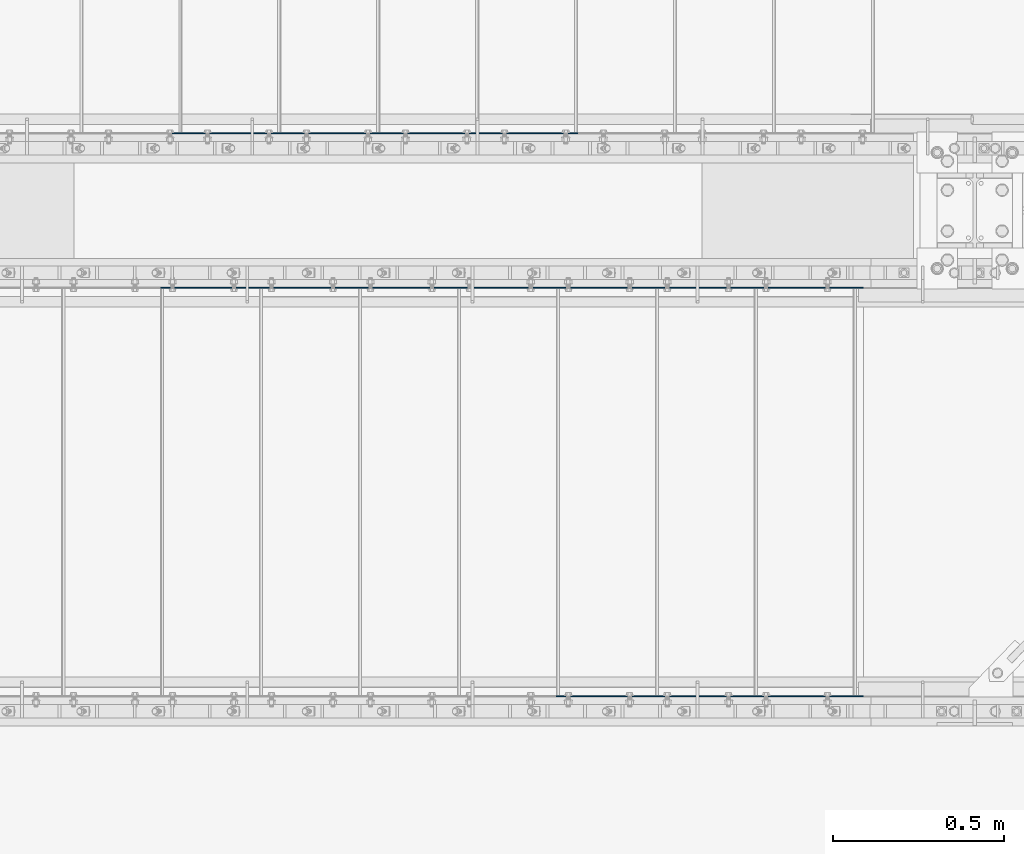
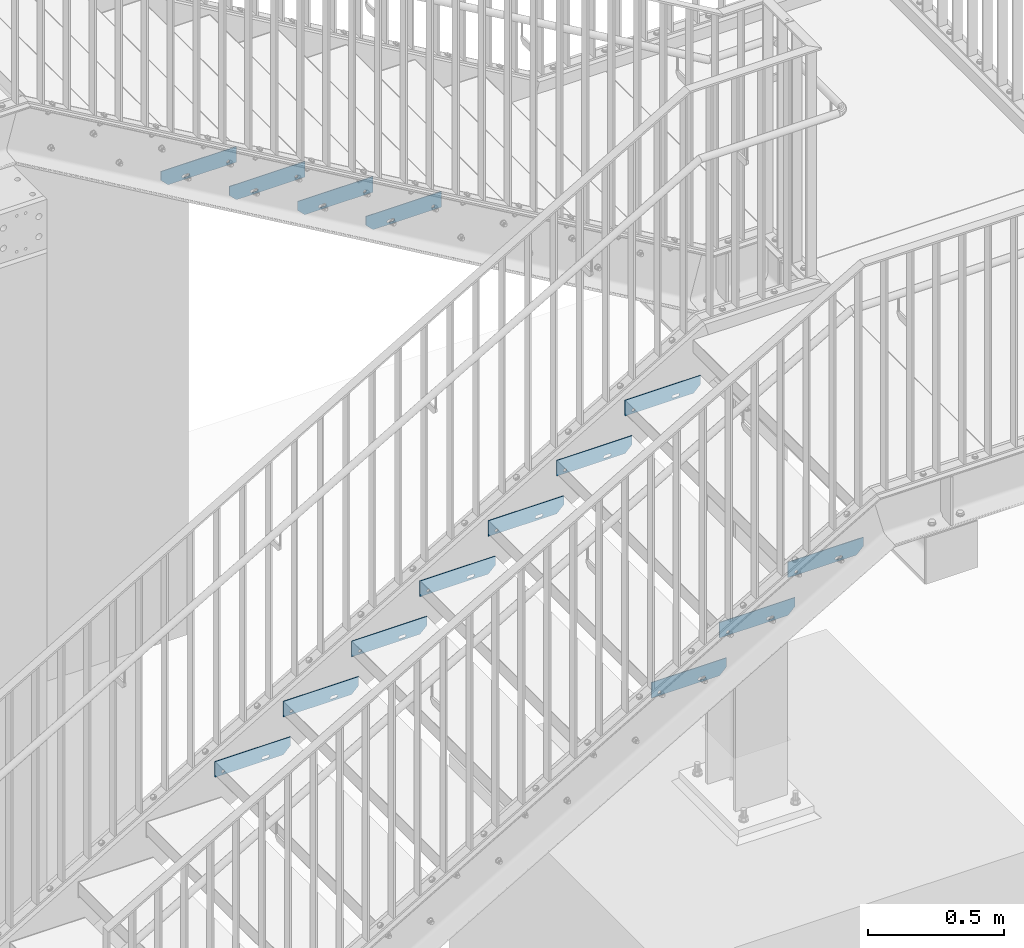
# One storey, part 22 of 145: 14 plates, 42 openings.
"""IFC2X3 building model written with IfcOpenShell, lengths in millimetres."""

from ifc_helpers import new_model, entity, si_unit, converted_unit, point, frame, frame_2d, origin, origin_with_axes, origin_2d_with_axis, place, context, project, spatial, polyline, circle_curve, line_curve, trimmed, segment, composite_curve, circle, outline, extrude, material, layer, layer_set, element, save


model = new_model("IFC2X3")

# Units and contexts
model_context = context("Model", 3, precision=1e-09, world=origin_with_axes())
ifc_project = project(units=[si_unit("LENGTHUNIT", "METRE", prefix="MILLI"), si_unit("AREAUNIT", "SQUARE_METRE"), si_unit("VOLUMEUNIT", "CUBIC_METRE"), converted_unit("PLANEANGLEUNIT", "DEGREE", entity("IfcPlaneAngleMeasure", 0.01745329), si_unit("PLANEANGLEUNIT", "RADIAN"), dimensions=[0, 0, 0, 0, 0, 0, 0])], contexts=[model_context])

# Site, building, storey
site_placement = place(None, origin_with_axes())
site = spatial("IfcSite", under=ifc_project, at=site_placement, Name="BZ1 Grund- und Mittelschule 85716 Unterschlei?heim", CompositionType="ELEMENT")
building_placement = place(site_placement, origin_with_axes())
building = spatial("IfcBuilding", under=site, at=building_placement, Name="Struktur 1", CompositionType="ELEMENT")
storey_placement = place(building_placement, origin_with_axes())
storey = spatial("IfcBuildingStorey", under=building, at=storey_placement, Name="Default Storey", CompositionType="ELEMENT", Elevation=0.0)

# Plate, openings
ifc_material = material(Name="S235JR")
ifc_layer = layer(ifc_material, 3.0)
ifc_layer_set = layer_set([ifc_layer], Name="S235JR")
plate_1_placement = place(None, frame((17984.545399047, -1920.002, 348.181818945), z_axis=(0.0, -1.0, 0.0), x_axis=(0.0, 0.0, -1.0)))
plate_1 = element("IfcPlate", 1, at=plate_1_placement, inside=storey, material=ifc_layer_set, Name="-", ObjectType="-", context=model_context, shape_type="SweptSolid", body=[
    extrude(outline(polyline([(-35.0, -160.0), (35.0, -160.0), (35.0, 160.0), (-35.0, 160.0), (-35.0, -160.0)])), origin_with_axes(), (0.0, 0.0, 1.0), 3.0),
])
opening_1_placement = place(plate_1_placement, frame((0.0, 7.5, -0.001), z_axis=(0.0, 0.0, 1.0), x_axis=(1.0, 0.0, 0.0)))
element("IfcOpeningElement", 2, at=opening_1_placement, cuts=plate_1, ObjectType="Opening", context=model_context, shape_type="SweptSolid", body=[
    extrude(outline(polyline([(5.0, 152.5), (35.0, 122.5), (35.0, 152.5), (5.0, 152.5)])), origin(), (0.0, 0.0, 1.0), 3.002),
])
opening_2_placement = place(plate_1_placement, frame((13.499, 45.5, -0.5), z_axis=(0.0, 0.0, -1.0), x_axis=(0.0, 1.0, 0.0)))
element("IfcOpeningElement", 3, at=opening_2_placement, cuts=plate_1, ObjectType="Opening", context=model_context, shape_type="SweptSolid", body=[
    extrude(outline(composite_curve([segment(trimmed(line_curve((0.0, 0.0), (1.0, 0.0), 19.0), [point((0.0, 0.0))], [point((19.0, 0.0))], True, "CARTESIAN"), True, "CONTINUOUS"), segment(trimmed(circle_curve(frame_2d((19.0, 6.501), x_axis=(1.0, 0.0)), 6.501), [point((19.0, 0.0))], [point((19.0, 13.002))], True, "CARTESIAN"), True, "CONTINUOUS"), segment(trimmed(line_curve((19.0, 13.002), (-1.0, 0.0), 19.0), [point((19.0, 13.002))], [point((0.0, 13.002))], True, "CARTESIAN"), True, "CONTINUOUS"), segment(trimmed(circle_curve(frame_2d((0.0, 6.501), x_axis=(1.0, 0.0)), 6.501), [point((0.0, 13.002))], [point((0.0, 0.0))], True, "CARTESIAN"), True, "CONTINUOUS")], self_intersect=False)), origin(), (0.0, 0.0, -1.0), 4.0),
])
opening_3_placement = place(plate_1_placement, frame((26.501, -125.0, -0.5), z_axis=(0.0, 0.0, -1.0), x_axis=(-1.0, 0.0, 0.0)))
element("IfcOpeningElement", 4, at=opening_3_placement, cuts=plate_1, ObjectType="Opening", context=model_context, shape_type="SweptSolid", body=[
    extrude(circle(Radius=6.501, at=frame_2d((6.501, 0.0), x_axis=(1.0, 0.0))), origin(), (0.0, 0.0, -1.0), 4.0),
])

plate_2_placement = place(None, frame((18274.545399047, -1920.002, 516.818182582), z_axis=(0.0, -1.0, 0.0), x_axis=(0.0, 0.0, -1.0)))
plate_2 = element("IfcPlate", 5, at=plate_2_placement, inside=storey, material=ifc_layer_set, Name="-", ObjectType="-", context=model_context, shape_type="SweptSolid", body=[
    extrude(outline(polyline([(-35.0, -160.0), (35.0, -160.0), (35.0, 160.0), (-35.0, 160.0), (-35.0, -160.0)])), origin_with_axes(), (0.0, 0.0, 1.0), 3.0),
])
opening_4_placement = place(plate_2_placement, frame((0.0, 7.5, -0.001), z_axis=(0.0, 0.0, 1.0), x_axis=(1.0, 0.0, 0.0)))
element("IfcOpeningElement", 6, at=opening_4_placement, cuts=plate_2, ObjectType="Opening", context=model_context, shape_type="SweptSolid", body=[
    extrude(outline(polyline([(5.0, 152.5), (35.0, 122.5), (35.0, 152.5), (5.0, 152.5)])), origin(), (0.0, 0.0, 1.0), 3.002),
])
opening_5_placement = place(plate_2_placement, frame((26.501, -125.0, -0.5), z_axis=(0.0, 0.0, -1.0), x_axis=(-1.0, 0.0, 0.0)))
element("IfcOpeningElement", 7, at=opening_5_placement, cuts=plate_2, ObjectType="Opening", context=model_context, shape_type="SweptSolid", body=[
    extrude(circle(Radius=6.501, at=frame_2d((6.501, 0.0), x_axis=(1.0, 0.0))), origin(), (0.0, 0.0, -1.0), 4.0),
])
opening_6_placement = place(plate_2_placement, frame((13.499, 45.5, -0.5), z_axis=(0.0, 0.0, -1.0), x_axis=(0.0, 1.0, 0.0)))
element("IfcOpeningElement", 8, at=opening_6_placement, cuts=plate_2, ObjectType="Opening", context=model_context, shape_type="SweptSolid", body=[
    extrude(outline(composite_curve([segment(trimmed(line_curve((0.0, 0.0), (1.0, 0.0), 19.0), [point((0.0, 0.0))], [point((19.0, 0.0))], True, "CARTESIAN"), True, "CONTINUOUS"), segment(trimmed(circle_curve(frame_2d((19.0, 6.501), x_axis=(1.0, 0.0)), 6.501), [point((19.0, 0.0))], [point((19.0, 13.002))], True, "CARTESIAN"), True, "CONTINUOUS"), segment(trimmed(line_curve((19.0, 13.002), (-1.0, 0.0), 19.0), [point((19.0, 13.002))], [point((0.0, 13.002))], True, "CARTESIAN"), True, "CONTINUOUS"), segment(trimmed(circle_curve(frame_2d((0.0, 6.501), x_axis=(1.0, 0.0)), 6.501), [point((0.0, 13.002))], [point((0.0, 0.0))], True, "CARTESIAN"), True, "CONTINUOUS")], self_intersect=False)), origin(), (0.0, 0.0, -1.0), 4.0),
])

plate_3_placement = place(None, frame((18564.545399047, -1920.002, 685.454546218), z_axis=(0.0, -1.0, 0.0), x_axis=(0.0, 0.0, -1.0)))
plate_3 = element("IfcPlate", 9, at=plate_3_placement, inside=storey, material=ifc_layer_set, Name="-", ObjectType="-", context=model_context, shape_type="SweptSolid", body=[
    extrude(outline(polyline([(-35.0, -160.0), (35.0, -160.0), (35.0, 160.0), (-35.0, 160.0), (-35.0, -160.0)])), origin_with_axes(), (0.0, 0.0, 1.0), 3.0),
])
opening_7_placement = place(plate_3_placement, frame((0.0, 7.5, -0.001), z_axis=(0.0, 0.0, 1.0), x_axis=(1.0, 0.0, 0.0)))
element("IfcOpeningElement", 10, at=opening_7_placement, cuts=plate_3, ObjectType="Opening", context=model_context, shape_type="SweptSolid", body=[
    extrude(outline(polyline([(5.0, 152.5), (35.0, 122.5), (35.0, 152.5), (5.0, 152.5)])), origin(), (0.0, 0.0, 1.0), 3.002),
])
opening_8_placement = place(plate_3_placement, frame((26.501, -125.0, -0.5), z_axis=(0.0, 0.0, -1.0), x_axis=(-1.0, 0.0, 0.0)))
element("IfcOpeningElement", 11, at=opening_8_placement, cuts=plate_3, ObjectType="Opening", context=model_context, shape_type="SweptSolid", body=[
    extrude(circle(Radius=6.501, at=frame_2d((6.501, 0.0), x_axis=(1.0, 0.0))), origin(), (0.0, 0.0, -1.0), 4.0),
])
opening_9_placement = place(plate_3_placement, frame((13.499, 45.5, -0.5), z_axis=(0.0, 0.0, -1.0), x_axis=(0.0, 1.0, 0.0)))
element("IfcOpeningElement", 12, at=opening_9_placement, cuts=plate_3, ObjectType="Opening", context=model_context, shape_type="SweptSolid", body=[
    extrude(outline(composite_curve([segment(trimmed(line_curve((0.0, 0.0), (1.0, 0.0), 19.0), [point((0.0, 0.0))], [point((19.0, 0.0))], True, "CARTESIAN"), True, "CONTINUOUS"), segment(trimmed(circle_curve(frame_2d((19.0, 6.501), x_axis=(1.0, 0.0)), 6.501), [point((19.0, 0.0))], [point((19.0, 13.002))], True, "CARTESIAN"), True, "CONTINUOUS"), segment(trimmed(line_curve((19.0, 13.002), (-1.0, 0.0), 19.0), [point((19.0, 13.002))], [point((0.0, 13.002))], True, "CARTESIAN"), True, "CONTINUOUS"), segment(trimmed(circle_curve(frame_2d((0.0, 6.501), x_axis=(1.0, 0.0)), 6.501), [point((0.0, 13.002))], [point((0.0, 0.0))], True, "CARTESIAN"), True, "CONTINUOUS")], self_intersect=False)), origin(), (0.0, 0.0, -1.0), 4.0),
])

plate_4_placement = place(None, frame((18854.545399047, -1920.002, 854.090909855), z_axis=(0.0, -1.0, 0.0), x_axis=(0.0, 0.0, -1.0)))
plate_4 = element("IfcPlate", 13, at=plate_4_placement, inside=storey, material=ifc_layer_set, Name="-", ObjectType="-", context=model_context, shape_type="SweptSolid", body=[
    extrude(outline(polyline([(-35.0, -160.0), (35.0, -160.0), (35.0, 160.0), (-35.0, 160.0), (-35.0, -160.0)])), origin_with_axes(), (0.0, 0.0, 1.0), 3.0),
])
opening_10_placement = place(plate_4_placement, frame((0.0, 7.5, -0.001), z_axis=(0.0, 0.0, 1.0), x_axis=(1.0, 0.0, 0.0)))
element("IfcOpeningElement", 14, at=opening_10_placement, cuts=plate_4, ObjectType="Opening", context=model_context, shape_type="SweptSolid", body=[
    extrude(outline(polyline([(5.0, 152.5), (35.0, 122.5), (35.0, 152.5), (5.0, 152.5)])), origin(), (0.0, 0.0, 1.0), 3.002),
])
opening_11_placement = place(plate_4_placement, frame((13.499, 45.5, -0.5), z_axis=(0.0, 0.0, -1.0), x_axis=(0.0, 1.0, 0.0)))
element("IfcOpeningElement", 15, at=opening_11_placement, cuts=plate_4, ObjectType="Opening", context=model_context, shape_type="SweptSolid", body=[
    extrude(outline(composite_curve([segment(trimmed(line_curve((0.0, 0.0), (1.0, 0.0), 19.0), [point((0.0, 0.0))], [point((19.0, 0.0))], True, "CARTESIAN"), True, "CONTINUOUS"), segment(trimmed(circle_curve(frame_2d((19.0, 6.501), x_axis=(1.0, 0.0)), 6.501), [point((19.0, 0.0))], [point((19.0, 13.002))], True, "CARTESIAN"), True, "CONTINUOUS"), segment(trimmed(line_curve((19.0, 13.002), (-1.0, 0.0), 19.0), [point((19.0, 13.002))], [point((0.0, 13.002))], True, "CARTESIAN"), True, "CONTINUOUS"), segment(trimmed(circle_curve(frame_2d((0.0, 6.501), x_axis=(1.0, 0.0)), 6.501), [point((0.0, 13.002))], [point((0.0, 0.0))], True, "CARTESIAN"), True, "CONTINUOUS")], self_intersect=False)), origin(), (0.0, 0.0, -1.0), 4.0),
])
opening_12_placement = place(plate_4_placement, frame((26.501, -125.0, -0.5), z_axis=(0.0, 0.0, -1.0), x_axis=(-1.0, 0.0, 0.0)))
element("IfcOpeningElement", 16, at=opening_12_placement, cuts=plate_4, ObjectType="Opening", context=model_context, shape_type="SweptSolid", body=[
    extrude(circle(Radius=6.501, at=frame_2d((6.501, 0.0), x_axis=(1.0, 0.0))), origin(), (0.0, 0.0, -1.0), 4.0),
])

plate_5_placement = place(None, frame((19144.545399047, -3117.002, 1022.727273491), z_axis=(0.0, -1.0, 0.0), x_axis=(0.0, 0.0, -1.0)))
plate_5 = element("IfcPlate", 17, at=plate_5_placement, inside=storey, material=ifc_layer_set, Name="-", ObjectType="-", context=model_context, shape_type="SweptSolid", body=[
    extrude(outline(polyline([(-35.0, -160.0), (35.0, -160.0), (35.0, 160.0), (-35.0, 160.0), (-35.0, -160.0)])), origin_with_axes(), (0.0, 0.0, 1.0), 3.0),
])
opening_13_placement = place(plate_5_placement, frame((0.0, 7.5, -0.001), z_axis=(0.0, 0.0, 1.0), x_axis=(1.0, 0.0, 0.0)))
element("IfcOpeningElement", 18, at=opening_13_placement, cuts=plate_5, ObjectType="Opening", context=model_context, shape_type="SweptSolid", body=[
    extrude(outline(polyline([(5.0, 152.5), (35.0, 122.5), (35.0, 152.5), (5.0, 152.5)])), origin(), (0.0, 0.0, 1.0), 3.002),
])
opening_14_placement = place(plate_5_placement, frame((20.0, -125.0, 3.5), z_axis=(0.0, 0.0, -1.0), x_axis=(-1.0, 0.0, 0.0)))
element("IfcOpeningElement", 19, at=opening_14_placement, cuts=plate_5, ObjectType="Opening", context=model_context, shape_type="SweptSolid", body=[
    extrude(circle(Radius=6.501, at=origin_2d_with_axis()), origin(), (0.0, 0.0, 1.0), 4.0),
])
opening_15_placement = place(plate_5_placement, frame((20.0, 55.0, 3.5), z_axis=(0.0, 0.0, -1.0), x_axis=(-1.0, 0.0, 0.0)))
element("IfcOpeningElement", 20, at=opening_15_placement, cuts=plate_5, ObjectType="Opening", context=model_context, shape_type="SweptSolid", body=[
    extrude(outline(composite_curve([segment(trimmed(line_curve((6.501, -9.5), (0.0, 1.0), 19.0), [point((6.501, -9.5))], [point((6.501, 9.5))], True, "CARTESIAN"), True, "CONTINUOUS"), segment(trimmed(circle_curve(frame_2d((0.0, 9.5), x_axis=(1.0, 0.0)), 6.501), [point((6.501, 9.5))], [point((-6.501, 9.5))], True, "CARTESIAN"), True, "CONTINUOUS"), segment(trimmed(line_curve((-6.501, 9.5), (0.0, -1.0), 19.0), [point((-6.501, 9.5))], [point((-6.501, -9.5))], True, "CARTESIAN"), True, "CONTINUOUS"), segment(trimmed(circle_curve(frame_2d((0.0, -9.5), x_axis=(1.0, 0.0)), 6.501), [point((-6.501, -9.5))], [point((6.501, -9.5))], True, "CARTESIAN"), True, "CONTINUOUS")], self_intersect=False)), origin(), (0.0, 0.0, 1.0), 4.0),
])

plate_6_placement = place(None, frame((19144.545399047, -1920.002, 1022.727273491), z_axis=(0.0, -1.0, 0.0), x_axis=(0.0, 0.0, -1.0)))
plate_6 = element("IfcPlate", 21, at=plate_6_placement, inside=storey, material=ifc_layer_set, Name="-", ObjectType="-", context=model_context, shape_type="SweptSolid", body=[
    extrude(outline(polyline([(-35.0, -160.0), (35.0, -160.0), (35.0, 160.0), (-35.0, 160.0), (-35.0, -160.0)])), origin_with_axes(), (0.0, 0.0, 1.0), 3.0),
])
opening_16_placement = place(plate_6_placement, frame((0.0, 7.5, -0.001), z_axis=(0.0, 0.0, 1.0), x_axis=(1.0, 0.0, 0.0)))
element("IfcOpeningElement", 22, at=opening_16_placement, cuts=plate_6, ObjectType="Opening", context=model_context, shape_type="SweptSolid", body=[
    extrude(outline(polyline([(5.0, 152.5), (35.0, 122.5), (35.0, 152.5), (5.0, 152.5)])), origin(), (0.0, 0.0, 1.0), 3.002),
])
opening_17_placement = place(plate_6_placement, frame((13.499, 45.5, -0.5), z_axis=(0.0, 0.0, -1.0), x_axis=(0.0, 1.0, 0.0)))
element("IfcOpeningElement", 23, at=opening_17_placement, cuts=plate_6, ObjectType="Opening", context=model_context, shape_type="SweptSolid", body=[
    extrude(outline(composite_curve([segment(trimmed(line_curve((0.0, 0.0), (1.0, 0.0), 19.0), [point((0.0, 0.0))], [point((19.0, 0.0))], True, "CARTESIAN"), True, "CONTINUOUS"), segment(trimmed(circle_curve(frame_2d((19.0, 6.501), x_axis=(1.0, 0.0)), 6.501), [point((19.0, 0.0))], [point((19.0, 13.002))], True, "CARTESIAN"), True, "CONTINUOUS"), segment(trimmed(line_curve((19.0, 13.002), (-1.0, 0.0), 19.0), [point((19.0, 13.002))], [point((0.0, 13.002))], True, "CARTESIAN"), True, "CONTINUOUS"), segment(trimmed(circle_curve(frame_2d((0.0, 6.501), x_axis=(1.0, 0.0)), 6.501), [point((0.0, 13.002))], [point((0.0, 0.0))], True, "CARTESIAN"), True, "CONTINUOUS")], self_intersect=False)), origin(), (0.0, 0.0, -1.0), 4.0),
])
opening_18_placement = place(plate_6_placement, frame((26.501, -125.0, -0.5), z_axis=(0.0, 0.0, -1.0), x_axis=(-1.0, 0.0, 0.0)))
element("IfcOpeningElement", 24, at=opening_18_placement, cuts=plate_6, ObjectType="Opening", context=model_context, shape_type="SweptSolid", body=[
    extrude(circle(Radius=6.501, at=frame_2d((6.501, 0.0), x_axis=(1.0, 0.0))), origin(), (0.0, 0.0, -1.0), 4.0),
])

plate_7_placement = place(None, frame((19434.545399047, -1920.002, 1191.363637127), z_axis=(0.0, -1.0, 0.0), x_axis=(0.0, 0.0, -1.0)))
plate_7 = element("IfcPlate", 25, at=plate_7_placement, inside=storey, material=ifc_layer_set, Name="-", ObjectType="-", context=model_context, shape_type="SweptSolid", body=[
    extrude(outline(polyline([(-35.0, -160.0), (35.0, -160.0), (35.0, 160.0), (-35.0, 160.0), (-35.0, -160.0)])), origin_with_axes(), (0.0, 0.0, 1.0), 3.0),
])
opening_19_placement = place(plate_7_placement, frame((0.0, 7.5, -0.001), z_axis=(0.0, 0.0, 1.0), x_axis=(1.0, 0.0, 0.0)))
element("IfcOpeningElement", 26, at=opening_19_placement, cuts=plate_7, ObjectType="Opening", context=model_context, shape_type="SweptSolid", body=[
    extrude(outline(polyline([(5.0, 152.5), (35.0, 122.5), (35.0, 152.5), (5.0, 152.5)])), origin(), (0.0, 0.0, 1.0), 3.002),
])
opening_20_placement = place(plate_7_placement, frame((13.499, 45.5, -0.5), z_axis=(0.0, 0.0, -1.0), x_axis=(0.0, 1.0, 0.0)))
element("IfcOpeningElement", 27, at=opening_20_placement, cuts=plate_7, ObjectType="Opening", context=model_context, shape_type="SweptSolid", body=[
    extrude(outline(composite_curve([segment(trimmed(line_curve((0.0, 0.0), (1.0, 0.0), 19.0), [point((0.0, 0.0))], [point((19.0, 0.0))], True, "CARTESIAN"), True, "CONTINUOUS"), segment(trimmed(circle_curve(frame_2d((19.0, 6.501), x_axis=(1.0, 0.0)), 6.501), [point((19.0, 0.0))], [point((19.0, 13.002))], True, "CARTESIAN"), True, "CONTINUOUS"), segment(trimmed(line_curve((19.0, 13.002), (-1.0, 0.0), 19.0), [point((19.0, 13.002))], [point((0.0, 13.002))], True, "CARTESIAN"), True, "CONTINUOUS"), segment(trimmed(circle_curve(frame_2d((0.0, 6.501), x_axis=(1.0, 0.0)), 6.501), [point((0.0, 13.002))], [point((0.0, 0.0))], True, "CARTESIAN"), True, "CONTINUOUS")], self_intersect=False)), origin(), (0.0, 0.0, -1.0), 4.0),
])
opening_21_placement = place(plate_7_placement, frame((26.501, -125.0, -0.5), z_axis=(0.0, 0.0, -1.0), x_axis=(-1.0, 0.0, 0.0)))
element("IfcOpeningElement", 28, at=opening_21_placement, cuts=plate_7, ObjectType="Opening", context=model_context, shape_type="SweptSolid", body=[
    extrude(circle(Radius=6.501, at=frame_2d((6.501, 0.0), x_axis=(1.0, 0.0))), origin(), (0.0, 0.0, -1.0), 4.0),
])

plate_8_placement = place(None, frame((19434.545399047, -3117.002, 1191.363637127), z_axis=(0.0, -1.0, 0.0), x_axis=(0.0, 0.0, -1.0)))
plate_8 = element("IfcPlate", 29, at=plate_8_placement, inside=storey, material=ifc_layer_set, Name="-", ObjectType="-", context=model_context, shape_type="SweptSolid", body=[
    extrude(outline(polyline([(-35.0, -160.0), (35.0, -160.0), (35.0, 160.0), (-35.0, 160.0), (-35.0, -160.0)])), origin_with_axes(), (0.0, 0.0, 1.0), 3.0),
])
opening_22_placement = place(plate_8_placement, frame((0.0, 7.5, -0.001), z_axis=(0.0, 0.0, 1.0), x_axis=(1.0, 0.0, 0.0)))
element("IfcOpeningElement", 30, at=opening_22_placement, cuts=plate_8, ObjectType="Opening", context=model_context, shape_type="SweptSolid", body=[
    extrude(outline(polyline([(5.0, 152.5), (35.0, 122.5), (35.0, 152.5), (5.0, 152.5)])), origin(), (0.0, 0.0, 1.0), 3.002),
])
opening_23_placement = place(plate_8_placement, frame((20.0, 55.0, 3.5), z_axis=(0.0, 0.0, -1.0), x_axis=(-1.0, 0.0, 0.0)))
element("IfcOpeningElement", 31, at=opening_23_placement, cuts=plate_8, ObjectType="Opening", context=model_context, shape_type="SweptSolid", body=[
    extrude(outline(composite_curve([segment(trimmed(line_curve((6.501, -9.5), (0.0, 1.0), 19.0), [point((6.501, -9.5))], [point((6.501, 9.5))], True, "CARTESIAN"), True, "CONTINUOUS"), segment(trimmed(circle_curve(frame_2d((0.0, 9.5), x_axis=(1.0, 0.0)), 6.501), [point((6.501, 9.5))], [point((-6.501, 9.5))], True, "CARTESIAN"), True, "CONTINUOUS"), segment(trimmed(line_curve((-6.501, 9.5), (0.0, -1.0), 19.0), [point((-6.501, 9.5))], [point((-6.501, -9.5))], True, "CARTESIAN"), True, "CONTINUOUS"), segment(trimmed(circle_curve(frame_2d((0.0, -9.5), x_axis=(1.0, 0.0)), 6.501), [point((-6.501, -9.5))], [point((6.501, -9.5))], True, "CARTESIAN"), True, "CONTINUOUS")], self_intersect=False)), origin(), (0.0, 0.0, 1.0), 4.0),
])
opening_24_placement = place(plate_8_placement, frame((20.0, -125.0, 3.5), z_axis=(0.0, 0.0, -1.0), x_axis=(-1.0, 0.0, 0.0)))
element("IfcOpeningElement", 32, at=opening_24_placement, cuts=plate_8, ObjectType="Opening", context=model_context, shape_type="SweptSolid", body=[
    extrude(circle(Radius=6.501, at=origin_2d_with_axis()), origin(), (0.0, 0.0, 1.0), 4.0),
])

plate_9_placement = place(None, frame((19724.545399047, -1920.002, 1360.000000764), z_axis=(0.0, -1.0, 0.0), x_axis=(0.0, 0.0, -1.0)))
plate_9 = element("IfcPlate", 33, at=plate_9_placement, inside=storey, material=ifc_layer_set, Name="-", ObjectType="-", context=model_context, shape_type="SweptSolid", body=[
    extrude(outline(polyline([(-35.0, -160.0), (35.0, -160.0), (35.0, 160.0), (-35.0, 160.0), (-35.0, -160.0)])), origin_with_axes(), (0.0, 0.0, 1.0), 3.0),
])
opening_25_placement = place(plate_9_placement, frame((0.0, 7.5, -0.001), z_axis=(0.0, 0.0, 1.0), x_axis=(1.0, 0.0, 0.0)))
element("IfcOpeningElement", 34, at=opening_25_placement, cuts=plate_9, ObjectType="Opening", context=model_context, shape_type="SweptSolid", body=[
    extrude(outline(polyline([(5.0, 152.5), (35.0, 122.5), (35.0, 152.5), (5.0, 152.5)])), origin(), (0.0, 0.0, 1.0), 3.002),
])
opening_26_placement = place(plate_9_placement, frame((13.499, 45.5, -0.5), z_axis=(0.0, 0.0, -1.0), x_axis=(0.0, 1.0, 0.0)))
element("IfcOpeningElement", 35, at=opening_26_placement, cuts=plate_9, ObjectType="Opening", context=model_context, shape_type="SweptSolid", body=[
    extrude(outline(composite_curve([segment(trimmed(line_curve((0.0, 0.0), (1.0, 0.0), 19.0), [point((0.0, 0.0))], [point((19.0, 0.0))], True, "CARTESIAN"), True, "CONTINUOUS"), segment(trimmed(circle_curve(frame_2d((19.0, 6.501), x_axis=(1.0, 0.0)), 6.501), [point((19.0, 0.0))], [point((19.0, 13.002))], True, "CARTESIAN"), True, "CONTINUOUS"), segment(trimmed(line_curve((19.0, 13.002), (-1.0, 0.0), 19.0), [point((19.0, 13.002))], [point((0.0, 13.002))], True, "CARTESIAN"), True, "CONTINUOUS"), segment(trimmed(circle_curve(frame_2d((0.0, 6.501), x_axis=(1.0, 0.0)), 6.501), [point((0.0, 13.002))], [point((0.0, 0.0))], True, "CARTESIAN"), True, "CONTINUOUS")], self_intersect=False)), origin(), (0.0, 0.0, -1.0), 4.0),
])
opening_27_placement = place(plate_9_placement, frame((26.501, -125.0, -0.5), z_axis=(0.0, 0.0, -1.0), x_axis=(-1.0, 0.0, 0.0)))
element("IfcOpeningElement", 36, at=opening_27_placement, cuts=plate_9, ObjectType="Opening", context=model_context, shape_type="SweptSolid", body=[
    extrude(circle(Radius=6.501, at=frame_2d((6.501, 0.0), x_axis=(1.0, 0.0))), origin(), (0.0, 0.0, -1.0), 4.0),
])

plate_10_placement = place(None, frame((19724.545399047, -3117.002, 1360.000000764), z_axis=(0.0, -1.0, 0.0), x_axis=(0.0, 0.0, -1.0)))
plate_10 = element("IfcPlate", 37, at=plate_10_placement, inside=storey, material=ifc_layer_set, Name="-", ObjectType="-", context=model_context, shape_type="SweptSolid", body=[
    extrude(outline(polyline([(-35.0, -160.0), (35.0, -160.0), (35.0, 160.0), (-35.0, 160.0), (-35.0, -160.0)])), origin_with_axes(), (0.0, 0.0, 1.0), 3.0),
])
opening_28_placement = place(plate_10_placement, frame((0.0, 7.5, -0.001), z_axis=(0.0, 0.0, 1.0), x_axis=(1.0, 0.0, 0.0)))
element("IfcOpeningElement", 38, at=opening_28_placement, cuts=plate_10, ObjectType="Opening", context=model_context, shape_type="SweptSolid", body=[
    extrude(outline(polyline([(5.0, 152.5), (35.0, 122.5), (35.0, 152.5), (5.0, 152.5)])), origin(), (0.0, 0.0, 1.0), 3.002),
])
opening_29_placement = place(plate_10_placement, frame((20.0, 55.0, 3.5), z_axis=(0.0, 0.0, -1.0), x_axis=(-1.0, 0.0, 0.0)))
element("IfcOpeningElement", 39, at=opening_29_placement, cuts=plate_10, ObjectType="Opening", context=model_context, shape_type="SweptSolid", body=[
    extrude(outline(composite_curve([segment(trimmed(line_curve((6.501, -9.5), (0.0, 1.0), 19.0), [point((6.501, -9.5))], [point((6.501, 9.5))], True, "CARTESIAN"), True, "CONTINUOUS"), segment(trimmed(circle_curve(frame_2d((0.0, 9.5), x_axis=(1.0, 0.0)), 6.501), [point((6.501, 9.5))], [point((-6.501, 9.5))], True, "CARTESIAN"), True, "CONTINUOUS"), segment(trimmed(line_curve((-6.501, 9.5), (0.0, -1.0), 19.0), [point((-6.501, 9.5))], [point((-6.501, -9.5))], True, "CARTESIAN"), True, "CONTINUOUS"), segment(trimmed(circle_curve(frame_2d((0.0, -9.5), x_axis=(1.0, 0.0)), 6.501), [point((-6.501, -9.5))], [point((6.501, -9.5))], True, "CARTESIAN"), True, "CONTINUOUS")], self_intersect=False)), origin(), (0.0, 0.0, 1.0), 4.0),
])
opening_30_placement = place(plate_10_placement, frame((20.0, -125.0, 3.5), z_axis=(0.0, 0.0, -1.0), x_axis=(-1.0, 0.0, 0.0)))
element("IfcOpeningElement", 40, at=opening_30_placement, cuts=plate_10, ObjectType="Opening", context=model_context, shape_type="SweptSolid", body=[
    extrude(circle(Radius=6.501, at=origin_2d_with_axis()), origin(), (0.0, 0.0, 1.0), 4.0),
])

plate_11_placement = place(None, frame((18017.1419848, -1470.002, 2709.090909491), z_axis=(0.0, 1.0, 0.0), x_axis=(0.0, 0.0, -1.0)))
plate_11 = element("IfcPlate", 41, at=plate_11_placement, inside=storey, material=ifc_layer_set, Name="-", ObjectType="-", context=model_context, shape_type="SweptSolid", body=[
    extrude(outline(polyline([(-35.0, -160.0), (35.0, -160.0), (35.0, 160.0), (-35.0, 160.0), (-35.0, -160.0)])), origin_with_axes(), (0.0, 0.0, 1.0), 3.0),
])
opening_31_placement = place(plate_11_placement, frame((0.0, 7.5, -0.001), z_axis=(0.0, 0.0, 1.0), x_axis=(1.0, 0.0, 0.0)))
element("IfcOpeningElement", 42, at=opening_31_placement, cuts=plate_11, ObjectType="Opening", context=model_context, shape_type="SweptSolid", body=[
    extrude(outline(polyline([(5.0, 152.5), (35.0, 122.5), (35.0, 152.5), (5.0, 152.5)])), origin(), (0.0, 0.0, 1.0), 3.002),
])
opening_32_placement = place(plate_11_placement, frame((26.501, -125.0, -0.5), z_axis=(0.0, 0.0, -1.0), x_axis=(-1.0, 0.0, 0.0)))
element("IfcOpeningElement", 43, at=opening_32_placement, cuts=plate_11, ObjectType="Opening", context=model_context, shape_type="SweptSolid", body=[
    extrude(circle(Radius=6.501, at=frame_2d((6.501, 0.0), x_axis=(1.0, 0.0))), origin(), (0.0, 0.0, -1.0), 4.0),
])
opening_33_placement = place(plate_11_placement, frame((13.499, 45.5, -0.5), z_axis=(0.0, 0.0, -1.0), x_axis=(0.0, 1.0, 0.0)))
element("IfcOpeningElement", 44, at=opening_33_placement, cuts=plate_11, ObjectType="Opening", context=model_context, shape_type="SweptSolid", body=[
    extrude(outline(composite_curve([segment(trimmed(line_curve((0.0, 0.0), (1.0, 0.0), 19.0), [point((0.0, 0.0))], [point((19.0, 0.0))], True, "CARTESIAN"), True, "CONTINUOUS"), segment(trimmed(circle_curve(frame_2d((19.0, 6.501), x_axis=(1.0, 0.0)), 6.501), [point((19.0, 0.0))], [point((19.0, 13.002))], True, "CARTESIAN"), True, "CONTINUOUS"), segment(trimmed(line_curve((19.0, 13.002), (-1.0, 0.0), 19.0), [point((19.0, 13.002))], [point((0.0, 13.002))], True, "CARTESIAN"), True, "CONTINUOUS"), segment(trimmed(circle_curve(frame_2d((0.0, 6.501), x_axis=(1.0, 0.0)), 6.501), [point((0.0, 13.002))], [point((0.0, 0.0))], True, "CARTESIAN"), True, "CONTINUOUS")], self_intersect=False)), origin(), (0.0, 0.0, -1.0), 4.0),
])

plate_12_placement = place(None, frame((18887.1419848, -1470.002, 2203.181818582), z_axis=(0.0, 1.0, 0.0), x_axis=(0.0, 0.0, -1.0)))
plate_12 = element("IfcPlate", 45, at=plate_12_placement, inside=storey, material=ifc_layer_set, Name="-", ObjectType="-", context=model_context, shape_type="SweptSolid", body=[
    extrude(outline(polyline([(-35.0, -160.0), (35.0, -160.0), (35.0, 160.0), (-35.0, 160.0), (-35.0, -160.0)])), origin_with_axes(), (0.0, 0.0, 1.0), 3.0),
])
opening_34_placement = place(plate_12_placement, frame((0.0, 7.5, -0.001), z_axis=(0.0, 0.0, 1.0), x_axis=(1.0, 0.0, 0.0)))
element("IfcOpeningElement", 46, at=opening_34_placement, cuts=plate_12, ObjectType="Opening", context=model_context, shape_type="SweptSolid", body=[
    extrude(outline(polyline([(5.0, 152.5), (35.0, 122.5), (35.0, 152.5), (5.0, 152.5)])), origin(), (0.0, 0.0, 1.0), 3.002),
])
opening_35_placement = place(plate_12_placement, frame((26.501, -125.0, -0.5), z_axis=(0.0, 0.0, -1.0), x_axis=(-1.0, 0.0, 0.0)))
element("IfcOpeningElement", 47, at=opening_35_placement, cuts=plate_12, ObjectType="Opening", context=model_context, shape_type="SweptSolid", body=[
    extrude(circle(Radius=6.501, at=frame_2d((6.501, 0.0), x_axis=(1.0, 0.0))), origin(), (0.0, 0.0, -1.0), 4.0),
])
opening_36_placement = place(plate_12_placement, frame((13.499, 45.5, -0.5), z_axis=(0.0, 0.0, -1.0), x_axis=(0.0, 1.0, 0.0)))
element("IfcOpeningElement", 48, at=opening_36_placement, cuts=plate_12, ObjectType="Opening", context=model_context, shape_type="SweptSolid", body=[
    extrude(outline(composite_curve([segment(trimmed(line_curve((0.0, 0.0), (1.0, 0.0), 19.0), [point((0.0, 0.0))], [point((19.0, 0.0))], True, "CARTESIAN"), True, "CONTINUOUS"), segment(trimmed(circle_curve(frame_2d((19.0, 6.501), x_axis=(1.0, 0.0)), 6.501), [point((19.0, 0.0))], [point((19.0, 13.002))], True, "CARTESIAN"), True, "CONTINUOUS"), segment(trimmed(line_curve((19.0, 13.002), (-1.0, 0.0), 19.0), [point((19.0, 13.002))], [point((0.0, 13.002))], True, "CARTESIAN"), True, "CONTINUOUS"), segment(trimmed(circle_curve(frame_2d((0.0, 6.501), x_axis=(1.0, 0.0)), 6.501), [point((0.0, 13.002))], [point((0.0, 0.0))], True, "CARTESIAN"), True, "CONTINUOUS")], self_intersect=False)), origin(), (0.0, 0.0, -1.0), 4.0),
])

plate_13_placement = place(None, frame((18597.1419848, -1470.002, 2371.818182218), z_axis=(0.0, 1.0, 0.0), x_axis=(0.0, 0.0, -1.0)))
plate_13 = element("IfcPlate", 49, at=plate_13_placement, inside=storey, material=ifc_layer_set, Name="-", ObjectType="-", context=model_context, shape_type="SweptSolid", body=[
    extrude(outline(polyline([(-35.0, -160.0), (35.0, -160.0), (35.0, 160.0), (-35.0, 160.0), (-35.0, -160.0)])), origin_with_axes(), (0.0, 0.0, 1.0), 3.0),
])
opening_37_placement = place(plate_13_placement, frame((0.0, 7.5, -0.001), z_axis=(0.0, 0.0, 1.0), x_axis=(1.0, 0.0, 0.0)))
element("IfcOpeningElement", 50, at=opening_37_placement, cuts=plate_13, ObjectType="Opening", context=model_context, shape_type="SweptSolid", body=[
    extrude(outline(polyline([(5.0, 152.5), (35.0, 122.5), (35.0, 152.5), (5.0, 152.5)])), origin(), (0.0, 0.0, 1.0), 3.002),
])
opening_38_placement = place(plate_13_placement, frame((13.499, 45.5, -0.5), z_axis=(0.0, 0.0, -1.0), x_axis=(0.0, 1.0, 0.0)))
element("IfcOpeningElement", 51, at=opening_38_placement, cuts=plate_13, ObjectType="Opening", context=model_context, shape_type="SweptSolid", body=[
    extrude(outline(composite_curve([segment(trimmed(line_curve((0.0, 0.0), (1.0, 0.0), 19.0), [point((0.0, 0.0))], [point((19.0, 0.0))], True, "CARTESIAN"), True, "CONTINUOUS"), segment(trimmed(circle_curve(frame_2d((19.0, 6.501), x_axis=(1.0, 0.0)), 6.501), [point((19.0, 0.0))], [point((19.0, 13.002))], True, "CARTESIAN"), True, "CONTINUOUS"), segment(trimmed(line_curve((19.0, 13.002), (-1.0, 0.0), 19.0), [point((19.0, 13.002))], [point((0.0, 13.002))], True, "CARTESIAN"), True, "CONTINUOUS"), segment(trimmed(circle_curve(frame_2d((0.0, 6.501), x_axis=(1.0, 0.0)), 6.501), [point((0.0, 13.002))], [point((0.0, 0.0))], True, "CARTESIAN"), True, "CONTINUOUS")], self_intersect=False)), origin(), (0.0, 0.0, -1.0), 4.0),
])
opening_39_placement = place(plate_13_placement, frame((26.501, -125.0, -0.5), z_axis=(0.0, 0.0, -1.0), x_axis=(-1.0, 0.0, 0.0)))
element("IfcOpeningElement", 52, at=opening_39_placement, cuts=plate_13, ObjectType="Opening", context=model_context, shape_type="SweptSolid", body=[
    extrude(circle(Radius=6.501, at=frame_2d((6.501, 0.0), x_axis=(1.0, 0.0))), origin(), (0.0, 0.0, -1.0), 4.0),
])

plate_14_placement = place(None, frame((18307.1419848, -1470.002, 2540.454545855), z_axis=(0.0, 1.0, 0.0), x_axis=(0.0, 0.0, -1.0)))
plate_14 = element("IfcPlate", 53, at=plate_14_placement, inside=storey, material=ifc_layer_set, Name="-", ObjectType="-", context=model_context, shape_type="SweptSolid", body=[
    extrude(outline(polyline([(-35.0, -160.0), (35.0, -160.0), (35.0, 160.0), (-35.0, 160.0), (-35.0, -160.0)])), origin_with_axes(), (0.0, 0.0, 1.0), 3.0),
])
opening_40_placement = place(plate_14_placement, frame((0.0, 7.5, -0.001), z_axis=(0.0, 0.0, 1.0), x_axis=(1.0, 0.0, 0.0)))
element("IfcOpeningElement", 54, at=opening_40_placement, cuts=plate_14, ObjectType="Opening", context=model_context, shape_type="SweptSolid", body=[
    extrude(outline(polyline([(5.0, 152.5), (35.0, 122.5), (35.0, 152.5), (5.0, 152.5)])), origin(), (0.0, 0.0, 1.0), 3.002),
])
opening_41_placement = place(plate_14_placement, frame((26.501, -125.0, -0.5), z_axis=(0.0, 0.0, -1.0), x_axis=(-1.0, 0.0, 0.0)))
element("IfcOpeningElement", 55, at=opening_41_placement, cuts=plate_14, ObjectType="Opening", context=model_context, shape_type="SweptSolid", body=[
    extrude(circle(Radius=6.501, at=frame_2d((6.501, 0.0), x_axis=(1.0, 0.0))), origin(), (0.0, 0.0, -1.0), 4.0),
])
opening_42_placement = place(plate_14_placement, frame((13.499, 45.5, -0.5), z_axis=(0.0, 0.0, -1.0), x_axis=(0.0, 1.0, 0.0)))
element("IfcOpeningElement", 56, at=opening_42_placement, cuts=plate_14, ObjectType="Opening", context=model_context, shape_type="SweptSolid", body=[
    extrude(outline(composite_curve([segment(trimmed(line_curve((0.0, 0.0), (1.0, 0.0), 19.0), [point((0.0, 0.0))], [point((19.0, 0.0))], True, "CARTESIAN"), True, "CONTINUOUS"), segment(trimmed(circle_curve(frame_2d((19.0, 6.501), x_axis=(1.0, 0.0)), 6.501), [point((19.0, 0.0))], [point((19.0, 13.002))], True, "CARTESIAN"), True, "CONTINUOUS"), segment(trimmed(line_curve((19.0, 13.002), (-1.0, 0.0), 19.0), [point((19.0, 13.002))], [point((0.0, 13.002))], True, "CARTESIAN"), True, "CONTINUOUS"), segment(trimmed(circle_curve(frame_2d((0.0, 6.501), x_axis=(1.0, 0.0)), 6.501), [point((0.0, 13.002))], [point((0.0, 0.0))], True, "CARTESIAN"), True, "CONTINUOUS")], self_intersect=False)), origin(), (0.0, 0.0, -1.0), 4.0),
])

save(model, "model.ifc")
